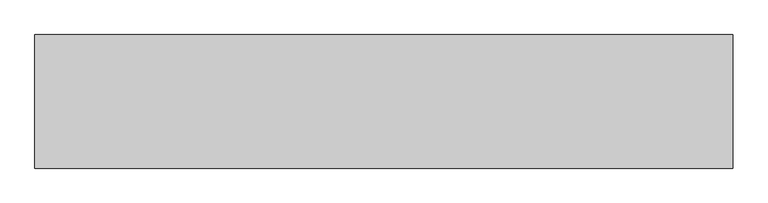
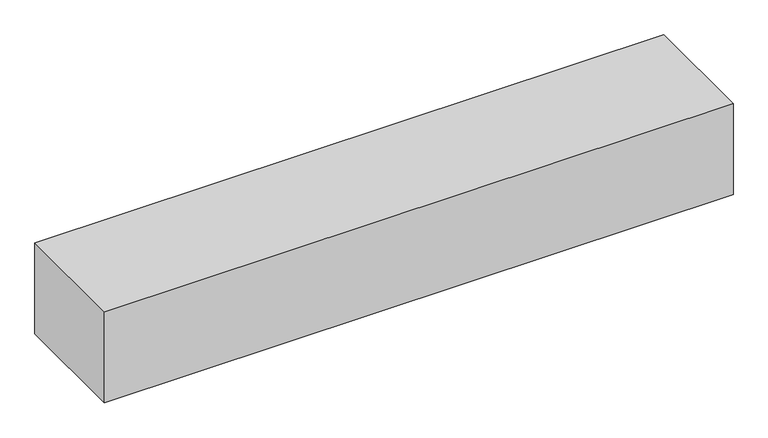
"""IFC4 building model written with IfcOpenShell, lengths in millimetres: geographic element geometry, r 低木密植 : 低木密植."""

from ifc_helpers import new_model, si_unit, origin, origin_with_axes, place, context, project, spatial, polyline, outline, extrude, source, transform, mapped, element, save


def geographic_element_438879f5(model_context):
    return source(origin(), model_context, "Body", "SweptSolid", [
        extrude(outline(polyline([(0.0, 0.0), (0.0, 500.0), (2612.5063635, 500.0), (2612.5063635, 0.0), (0.0, 0.0)])), origin_with_axes(), (0.0, 0.0, 1.0), 400.0),
    ])


if __name__ == "__main__":
    model = new_model("IFC4")
    model_context = context("Model", 3, world=origin())
    ifc_project = project(units=[si_unit("LENGTHUNIT", "METRE", prefix="MILLI")], contexts=[model_context])
    site = spatial("IfcSite", under=ifc_project)
    building = spatial("IfcBuilding", under=site)
    placement = place(None, origin())
    geographic_element_shape = geographic_element_438879f5(model_context)
    element("IfcGeographicElement", 1, ObjectType="r 低木密植 : 低木密植", at=placement, inside=building, context=model_context, shape_type="MappedRepresentation", body=[
        mapped(geographic_element_shape, transform((0.0, 0.0, 0.0), x_axis=(1.0, 0.0, 0.0), y_axis=(0.0, 1.0, 0.0), z_axis=(0.0, 0.0, 1.0))),
    ])
    save(model, "model.ifc")
